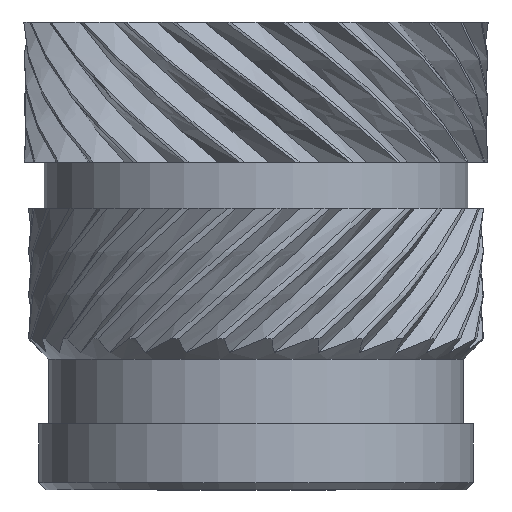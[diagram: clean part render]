
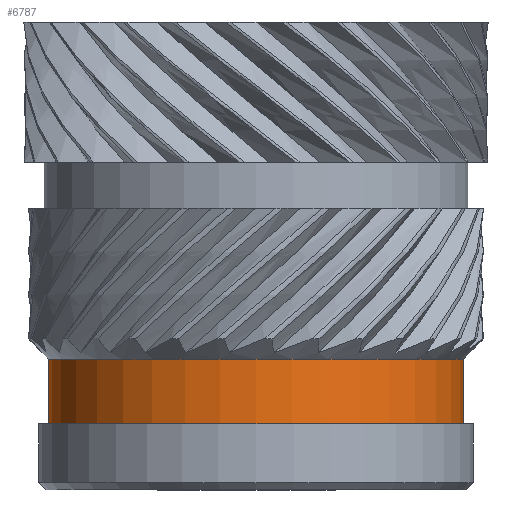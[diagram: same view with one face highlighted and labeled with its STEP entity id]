
A CAD part, front view. The second image highlights one B-rep face of the part: STEP entity #6787.
In plain terms, the highlighted cylindrical face has radius 5.625 mm (diameter 11.25 mm), a full revolution.
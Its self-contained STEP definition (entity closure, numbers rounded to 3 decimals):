
#544=FACE_OUTER_BOUND('',#938,.T.);
#938=EDGE_LOOP('',(#5500,#5501,#5502,#5503));
#1184=CIRCLE('',#7075,5.625);
#1253=CIRCLE('',#7205,5.625);
#1913=LINE('',#18799,#2234);
#2234=VECTOR('',#7720,5.625);
#2718=VERTEX_POINT('',#9607);
#2924=VERTEX_POINT('',#18796);
#3460=EDGE_CURVE('',#2718,#2718,#1184,.T.);
#3839=EDGE_CURVE('',#2924,#2924,#1253,.T.);
#3840=EDGE_CURVE('',#2718,#2924,#1913,.T.);
#5500=ORIENTED_EDGE('',*,*,#3460,.F.);
#5501=ORIENTED_EDGE('',*,*,#3840,.T.);
#5502=ORIENTED_EDGE('',*,*,#3839,.T.);
#5503=ORIENTED_EDGE('',*,*,#3840,.F.);
#6588=CYLINDRICAL_SURFACE('',#7206,5.625);
#6787=ADVANCED_FACE('',(#544),#6588,.T.);
#7075=AXIS2_PLACEMENT_3D('',#9609,#7454,#7455);
#7205=AXIS2_PLACEMENT_3D('',#18797,#7716,#7717);
#7206=AXIS2_PLACEMENT_3D('',#18798,#7718,#7719);
#7454=DIRECTION('center_axis',(0.,0.,1.));
#7455=DIRECTION('ref_axis',(1.,0.,0.));
#7716=DIRECTION('center_axis',(0.,0.,1.));
#7717=DIRECTION('ref_axis',(1.,0.,0.));
#7718=DIRECTION('center_axis',(0.,0.,1.));
#7719=DIRECTION('ref_axis',(1.,0.,0.));
#7720=DIRECTION('',(0.,0.,-1.));
#9607=CARTESIAN_POINT('',(-5.625,0.,3.55));
#9609=CARTESIAN_POINT('Origin',(0.,0.,3.55));
#18796=CARTESIAN_POINT('',(-5.625,0.,1.8));
#18797=CARTESIAN_POINT('Origin',(0.,0.,1.8));
#18798=CARTESIAN_POINT('Origin',(0.,0.,2.675));
#18799=CARTESIAN_POINT('',(-5.625,0.,2.675));
